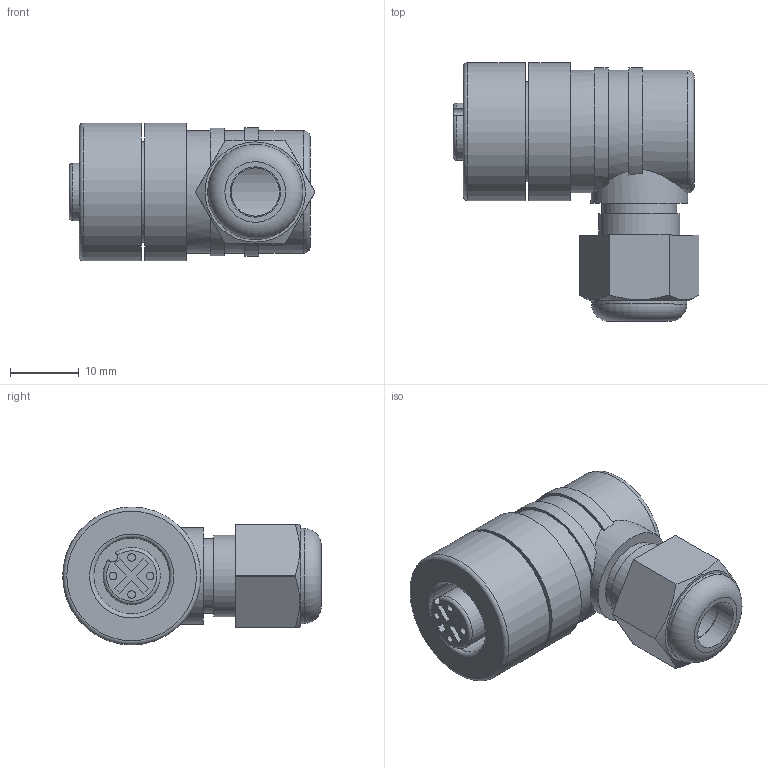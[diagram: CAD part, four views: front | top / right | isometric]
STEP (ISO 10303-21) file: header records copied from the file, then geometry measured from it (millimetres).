
FILE_DESCRIPTION(/* description */ (''),/* implementation_level */ '2;1');
FILE_NAME(/* name */ '106975.stp',/* time_stamp */ '2021-04-29T10:39:47+02:00',/* author */ (''),/* organization */ (''),/* preprocessor_version */ 'ST-DEVELOPER v16.7',/* originating_system */ 'SIEMENS PLM Software NX 12.0',/* authorisation */ '');
FILE_SCHEMA (('AUTOMOTIVE_DESIGN { 1 0 10303 214 3 1 1 1 }'));
Length unit declared in the file: millimetre
Products named in the file (1): model1
Bounding box: 35.66 x 37.5 x 20 mm (x, y, z)
Volume: 8839.6 mm3; surface area: 6748.5 mm2
Topology: 1 solids, 2 shells, 83 faces, 185 edges, 124 vertices
Faces by surface type: plane 45, cylinder 31, torus 6, cone 1
Full cylindrical faces by diameter (mm): 1.1 x4, 7 x1, 7.3 x1, 10.85 x1, 10.985 x1, 11.188 x1, 11.794 x1, 13.8 x1, 14 x1, 14.5 x2, 14.8 x1, 17.8 x3, 20 x2
Entity records: 2822 total; most frequent: CARTESIAN_POINT 497, DIRECTION 366, ORIENTED_EDGE 298, AXIS2_PLACEMENT_3D 151, EDGE_CURVE 149, EDGE_LOOP 128, VERTEX_POINT 113, FACE_BOUND 85
